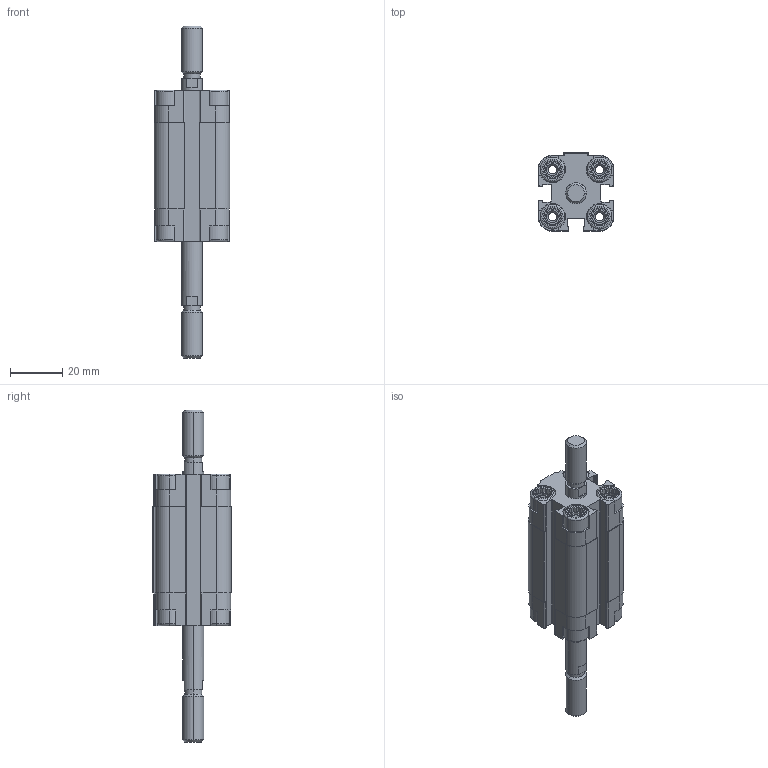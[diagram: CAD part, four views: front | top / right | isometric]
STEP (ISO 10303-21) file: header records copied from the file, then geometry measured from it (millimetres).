
FILE_DESCRIPTION (( 'STEP AP203' ), '1' );
FILE_NAME ('CDVU16-20M-P.STEP', '2020-07-21T15:04:14', ( '' ), ( '' ), 'SwSTEP 2.0', 'SolidWorks 2019', '' );
FILE_SCHEMA (( 'CONFIG_CONTROL_DESIGN' ));
Length unit declared in the file: millimetre
Products named in the file (1): CDVU16-20M-P
Bounding box: 29 x 30 x 127 mm (x, y, z)
Volume: 37081.2 mm3; surface area: 21035.1 mm2
Topology: 2 solids, 2 shells, 566 faces, 1504 edges, 978 vertices
Faces by surface type: plane 338, cylinder 164, cone 48, torus 16
Entity records: 17771 total; most frequent: CARTESIAN_POINT 3621, ORIENTED_EDGE 3000, DIRECTION 2850, EDGE_CURVE 1500, VERTEX_POINT 978, AXIS2_PLACEMENT_3D 975, LINE 900, VECTOR 900
